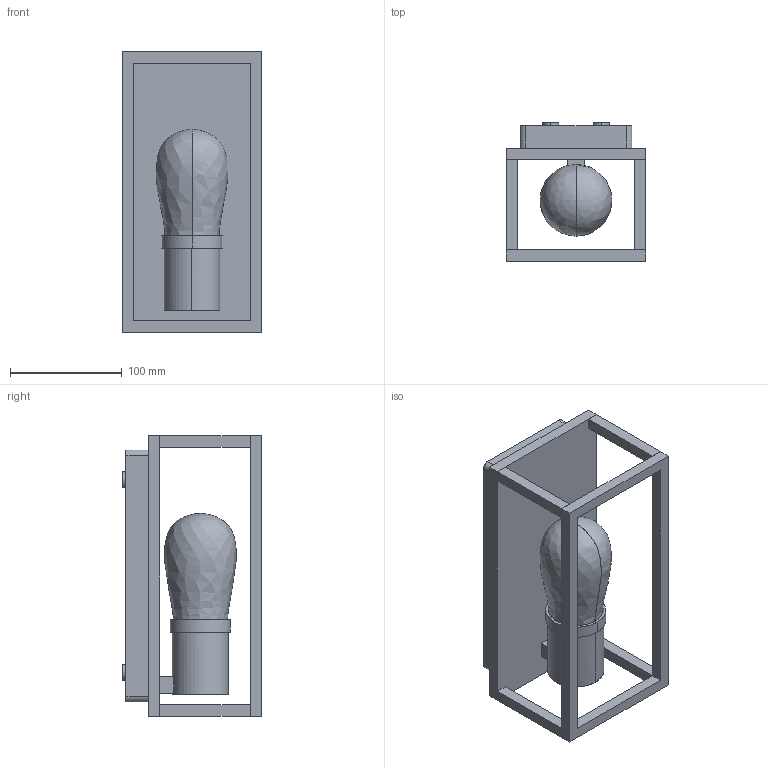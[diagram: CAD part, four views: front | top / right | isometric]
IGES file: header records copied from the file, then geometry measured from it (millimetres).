
Start section: SolidWorks IGES file using analytic representation for surfaces
Global section: file name: C:\Users\anna.bielnik\Desktop\modele 3D tymczasowe\MARGOT\MARGOT-10504\PM\Z³o¿enie Margot pm.IGS; native system: SolidWorks 2023; preprocessor: SolidWorks 2023; author: anna.bielnik; date: 230703.113101; units: millimetre
Bounding box: 125 x 124 x 250.23 mm (x, y, z)
Surface area: 236641.6 mm2 (no closed solid volume)
Topology: 0 solids, 0 shells, 148 faces, 1386 edges, 1372 vertices
Faces by surface type: bspline 102, revolution 46
